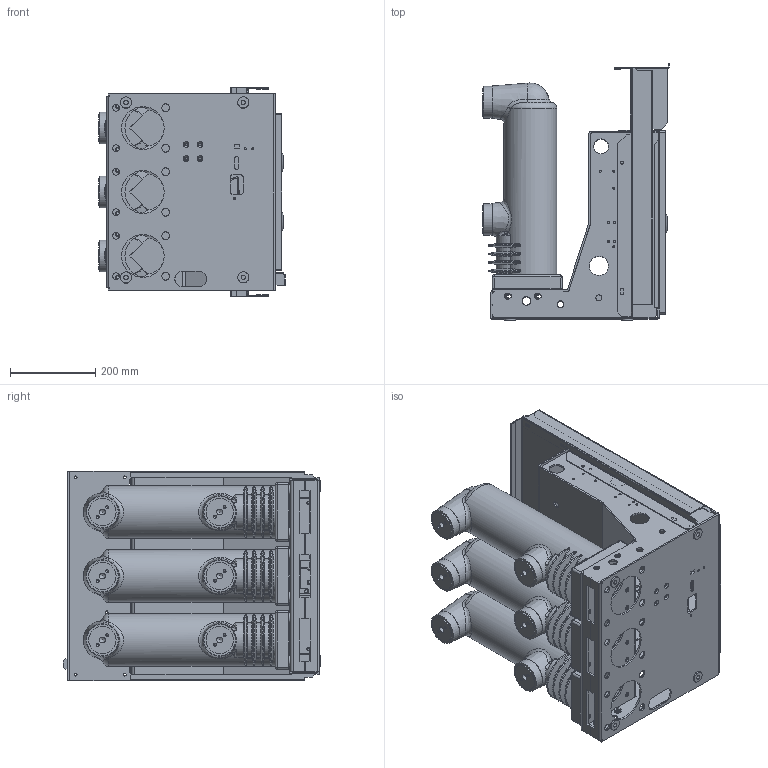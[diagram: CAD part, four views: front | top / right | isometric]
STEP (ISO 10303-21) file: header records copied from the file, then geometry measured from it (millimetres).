
FILE_DESCRIPTION(('STEP AP242'), '1');
FILE_NAME('OptiMat BB-10-20 (50)630(1250) -2-FX-1_闷仁.674152.006', '', ('UNSPECIFIED'), ('UNSPECIFIED'), 'C3D Converter', 'C3D Toolkit', '');
FILE_SCHEMA(('AP242_MANAGED_MODEL_BASED_3D_ENGINEERING_MIM_LF { 1 0 10303 442 1 1 4 }'));
Length unit declared in the file: millimetre
Products named in the file (1): OptiMat BB-10-20 (50)630(1250) -2-FX-1_ГЖИК.674152.006
Bounding box: 437.42 x 604 x 490 mm (x, y, z)
Volume: 20386739.6 mm3; surface area: 3501004 mm2
Topology: 4 solids, 4 shells, 1549 faces, 4094 edges, 2571 vertices
Faces by surface type: plane 602, cylinder 487, bspline 182, cone 131, torus 122, sphere 25
Full cylindrical faces by diameter (mm): 2 x2, 4 x6, 4.2 x1, 4.3 x1, 4.714 x3, 5 x41, 5.2 x4, 6 x11, 6.4 x1, 6.6 x4, 6.8 x12, 7 x25, 7.4 x2, 8 x5, 8.5 x12, 8.571 x3, 10 x2, 10.2 x4, 11 x12, 12.4 x2, 12.5 x1, 14 x8, 16 x13, 18 x11, 18.5 x1, 20 x5, 24 x12, 25 x3, 26 x4, 29.5 x2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
Entity records: 83845 total; most frequent: CARTESIAN_POINT 35189, ORIENTED_EDGE 7410, DIRECTION 7087, EDGE_CURVE 3705, AXIS2_PLACEMENT_3D 2765, VERTEX_POINT 2535, EDGE_LOOP 2256, FACE_BOUND 1825
